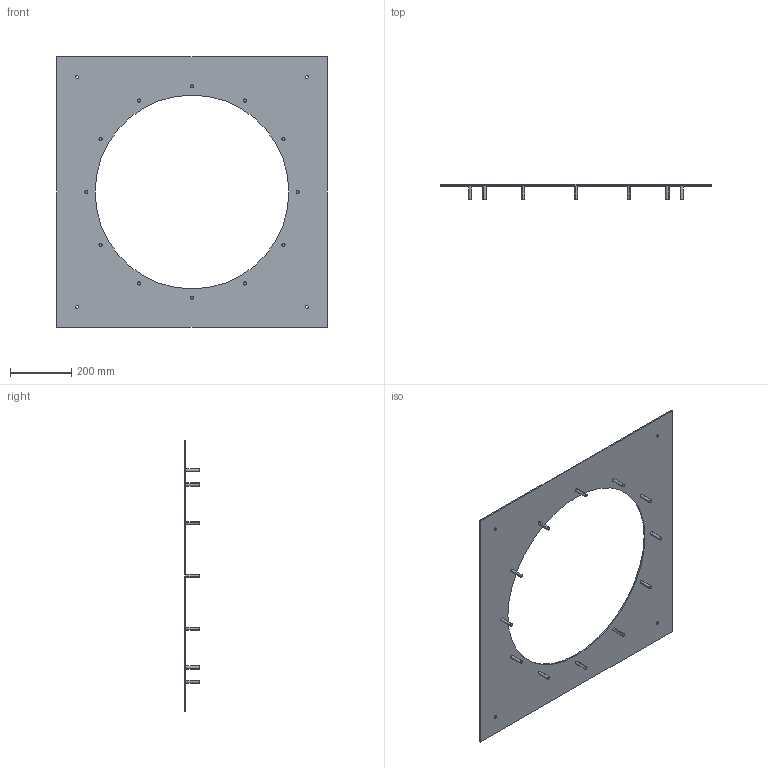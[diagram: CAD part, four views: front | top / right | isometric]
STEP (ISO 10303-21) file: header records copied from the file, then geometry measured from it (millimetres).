
FILE_DESCRIPTION(('STEP AP214'),'1');
FILE_NAME('accessory_5136826400.stp','2017-10-10T13:29:07',('TraceParts'),('TraceParts S.A.'),'Spatial InterOp 3D',' ',' ');
FILE_SCHEMA(('automotive_design'));
Length unit declared in the file: millimetre
Products named in the file (1): accessory_5136826400
Bounding box: 884 x 48 x 884 mm (x, y, z)
Volume: 1907234.8 mm3; surface area: 972071.6 mm2
Topology: 1 solids, 1 shells, 52 faces, 114 edges, 76 vertices
Faces by surface type: cylinder 34, plane 18
Entity records: 1918 total; most frequent: DIRECTION 288, CARTESIAN_POINT 243, ORIENTED_EDGE 228, AXIS2_PLACEMENT_3D 121, EDGE_CURVE 114, VERTEX_POINT 76, EDGE_LOOP 74, CIRCLE 68
